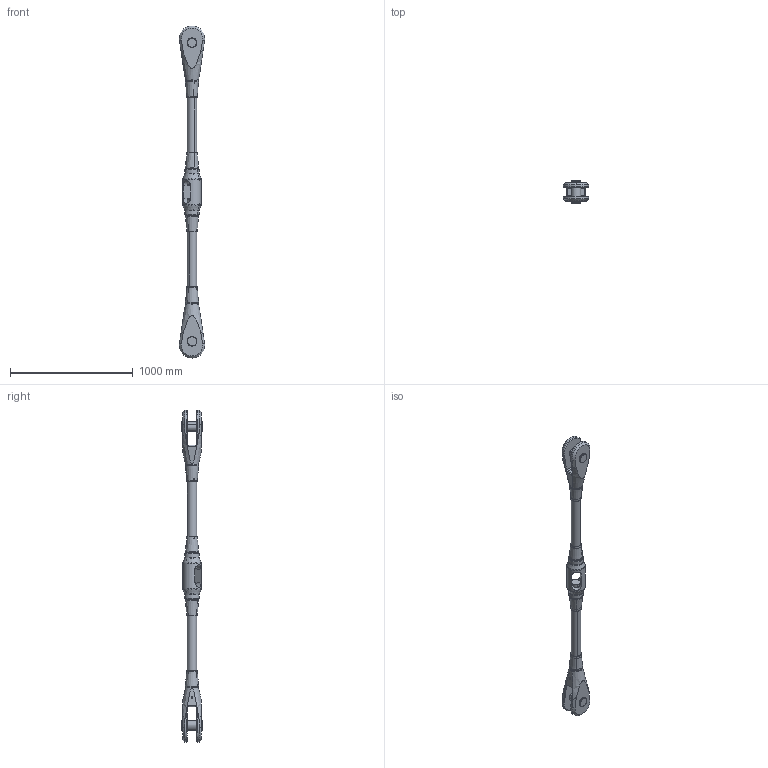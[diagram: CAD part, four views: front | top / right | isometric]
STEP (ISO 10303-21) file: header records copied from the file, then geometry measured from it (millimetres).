
FILE_DESCRIPTION (( 'STEP AP203' ), '1' );
FILE_NAME ('M76 G+AB+K.STEP', '2018-02-14T14:05:57', ( 'install' ), ( 'Hewlett-Packard Company' ), 'SwSTEP 2.0', 'SolidWorks 2017', '' );
FILE_SCHEMA (( 'CONFIG_CONTROL_DESIGN' ));
Length unit declared in the file: millimetre
Products named in the file (6): Abdeckhülse_generisch_M76; Kreuzmuffe_M76; Zugstab_M76; Bolzen SicherungsringVarB_generisch_M76; M76 G+AB+K; Gabelkopf Kunde_M76
Assembly tree (11 placements, depth 2):
  M76 G+AB+K
    Gabelkopf Kunde_M76  x2
    Abdeckhülse_generisch_M76  x4
    Kreuzmuffe_M76
    Zugstab_M76  x2
    Bolzen SicherungsringVarB_generisch_M76  x2
Bounding box: 206.94 x 175.8 x 2709 mm (x, y, z)
Volume: 25069659.1 mm3; surface area: 1900192.3 mm2
Topology: 11 solids, 11 shells, 320 faces, 778 edges, 470 vertices
Faces by surface type: cylinder 158, plane 74, cone 54, torus 26, bspline 8
Entity records: 6895 total; most frequent: CARTESIAN_POINT 2616, DIRECTION 758, ORIENTED_EDGE 722, EDGE_CURVE 361, AXIS2_PLACEMENT_3D 319, VERTEX_POINT 214, EDGE_LOOP 173, CIRCLE 157
